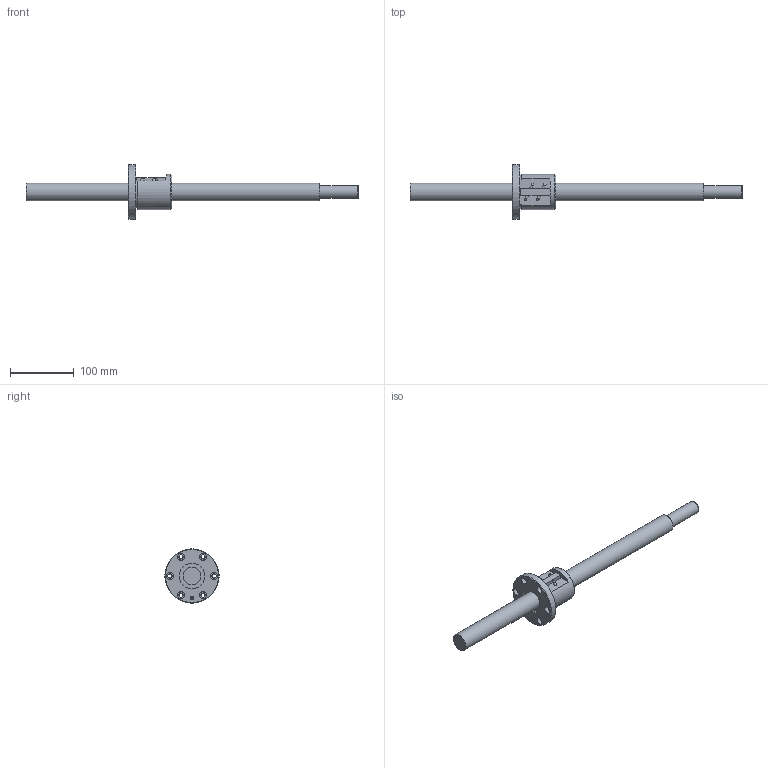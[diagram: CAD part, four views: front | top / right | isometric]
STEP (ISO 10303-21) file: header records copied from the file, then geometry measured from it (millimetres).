
FILE_DESCRIPTION(/* description */ ('STEP AP203'),/* implementation_level */ '2;1');
FILE_NAME(/* name */ 'BNF2806-5RRG1+520LC5A(00)',/* time_stamp */ '2024-07-15T07:45:45+02:00',/* author */ ('License CC BY-ND 4.0'),/* organization */ ('CADENAS'),/* preprocessor_version */ 'ST-DEVELOPER v19.3',/* originating_system */ 'PARTsolutions',/* authorisation */ ' ');
FILE_SCHEMA (('CONFIG_CONTROL_DESIGN'));
Length unit declared in the file: millimetre
Products named in the file (3): BNF2806-5RRG1+520LC5A(00); BNF2806-5RRG1+520LC5A(00)_shaft; BNF 2806-5RR_nut
Assembly tree (2 placements, depth 2):
  BNF2806-5RRG1+520LC5A(00)
    BNF2806-5RRG1+520LC5A(00)_shaft
    BNF 2806-5RR_nut
Bounding box: 520 x 85 x 85 mm (x, y, z)
Volume: 439070.9 mm3; surface area: 77787.6 mm2
Topology: 2 solids, 2 shells, 69 faces, 159 edges, 104 vertices
Faces by surface type: cylinder 32, plane 24, cone 9, torus 4
Full cylindrical faces by diameter (mm): 3 x2, 3.665 x4, 4.917 x1, 6.6 x6, 11 x6, 20.3 x1, 28 x2, 40 x2, 55 x1, 85 x1
Entity records: 1811 total; most frequent: DIRECTION 316, CARTESIAN_POINT 314, ORIENTED_EDGE 212, AXIS2_PLACEMENT_3D 146, EDGE_LOOP 142, FACE_BOUND 142, EDGE_CURVE 106, VERTEX_POINT 90
